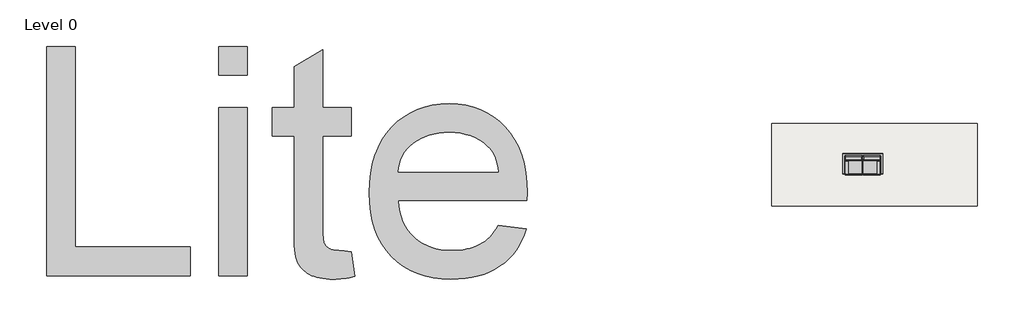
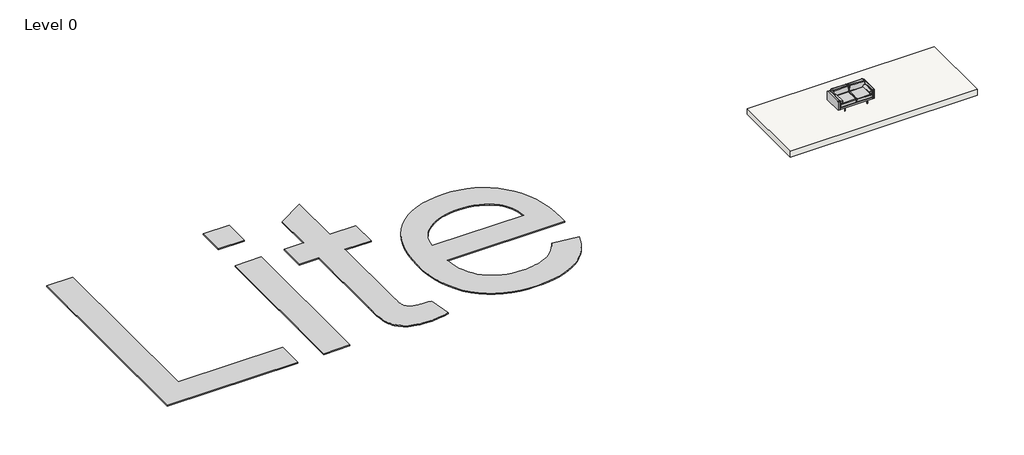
# One storey, incomplete: 1 furniture element, 1 proxy, 1 slab.
"""IFC4 building model written with IfcOpenShell, lengths in millimetres."""

from ifc_helpers import new_model, si_unit, frame, origin, origin_with_axes, place, context, project, spatial, polyline, outline, extrude, transform, mapped, element, save
from components import furniture_adbb1229, furniture_c92ce7f1

model = new_model("IFC4")

# Units and contexts
model_context = context("Model", 3, world=origin())
ifc_project = project(units=[si_unit("LENGTHUNIT", "METRE", prefix="MILLI")], contexts=[model_context])

# Site, building, storey
site = spatial("IfcSite", under=ifc_project)
building = spatial("IfcBuilding", under=site)
storey = spatial("IfcBuildingStorey", under=building, Name="Level 0", Elevation=0.0)

# Proxy
placement = place(None, origin())
element("IfcBuildingElementProxy", 1, Name="10 mm", ObjectType="10 mm", at=placement, inside=storey, context=model_context, shape_type="SweptSolid", body=[
    extrude(outline(polyline([(-136790.0745235, 70710.4267394), (-136790.0745235, 80756.0577544), (-135534.3706466, 80756.0577544), (-135534.3706466, 71966.1306163), (-130511.5551391, 71966.1306163), (-130511.5551391, 70710.4267394), (-136790.0745235, 70710.4267394)])), origin_with_axes(), (0.0, 0.0, 1.0), 50.0),
    extrude(outline(polyline([(-129255.8512623, 70710.4267394), (-129255.8512623, 78087.687016), (-128000.1473854, 78087.687016), (-128000.1473854, 70710.4267394), (-129255.8512623, 70710.4267394)])), origin_with_axes(), (0.0, 0.0, 1.0), 50.0),
    extrude(outline(polyline([(-129255.8512623, 79500.3538775), (-129255.8512623, 80756.0577544), (-128000.1473854, 80756.0577544), (-128000.1473854, 79500.3538775), (-129255.8512623, 79500.3538775)])), origin_with_axes(), (0.0, 0.0, 1.0), 50.0),
    extrude(outline(polyline([(-123448.2208317, 71757.6641523), (-123291.2578471, 70673.6385399), (-123546.7825496, 70621.0620714), (-123669.3715603, 70600.4070302), (-123788.5116773, 70583.5074511), (-123904.2029006, 70570.363334), (-124016.4452301, 70560.9746789), (-124125.238666, 70555.3414858), (-124230.5832082, 70553.4637548), (-124395.6319325, 70556.7210433), (-124551.1003965, 70566.4929088), (-124696.9886002, 70582.7793513), (-124833.2965436, 70605.5803708), (-124960.0242267, 70634.8959673), (-125077.1716496, 70670.7261408), (-125184.7388121, 70713.0708913), (-125282.7257144, 70761.9302187), (-125372.4735928, 70816.0778499), (-125455.3236838, 70874.2875114), (-125531.2759874, 70936.5592033), (-125600.3305035, 71002.8929256), (-125662.4872323, 71073.2886782), (-125717.7461737, 71147.7464612), (-125766.1073276, 71226.2662745), (-125807.5706942, 71308.8481182), (-125843.2092624, 71405.1488947), (-125874.0960216, 71524.8255062), (-125900.2309717, 71667.8779529), (-125921.6141127, 71834.3062347), (-125938.2454445, 72024.1103516), (-125950.1249673, 72237.2903036), (-125957.2526809, 72473.8460907), (-125959.6285855, 72733.7777129), (-125959.6285855, 76831.9831392), (-126901.4064931, 76831.9831392), (-126901.4064931, 78087.687016), (-125959.6285855, 78087.687016), (-125959.6285855, 79880.4986059), (-124703.9247086, 80618.7151428), (-124703.9247086, 78087.687016), (-123448.2208317, 78087.687016), (-123448.2208317, 76831.9831392), (-124703.9247086, 76831.9831392), (-124703.9247086, 72770.5659124), (-124699.7860362, 72541.5593704), (-124687.3700188, 72357.3118045), (-124678.0580058, 72281.9726376), (-124666.6766566, 72217.8232146), (-124653.2259712, 72164.8635358), (-124637.7059495, 72123.0936009), (-124599.4615504, 72054.4989372), (-124576.4880862, 72023.0182019), (-124550.9471123, 71993.4151976), (-124492.1626351, 71939.842382), (-124423.108119, 71893.7804906), (-124383.9631754, 71873.9493518), (-124340.7178805, 71856.7623648), (-124293.3722341, 71842.2195297), (-124241.9262363, 71830.3208464), (-124186.3798872, 71821.066315), (-124126.7331866, 71814.4559354), (-123995.1387312, 71809.1676317), (-123883.7011435, 71805.9486642), (-123755.4022977, 71796.2917618), (-123610.2421938, 71780.1969246), (-123448.2208317, 71757.6641523)])), origin_with_axes(), (0.0, 0.0, 1.0), 50.0),
    extrude(outline(polyline([(-117027.4537426, 72907.9085239), (-115796.2753321, 72750.9455393), (-115882.4018721, 72497.0686416), (-115985.0447808, 72257.8303816), (-116104.2040583, 72033.2307594), (-116239.8797046, 71823.2697748), (-116392.0717196, 71627.947428), (-116560.7801033, 71447.2637189), (-116746.0048558, 71281.2186476), (-116947.745977, 71129.8122139), (-117165.0071199, 70994.7305438), (-117396.7919373, 70877.6597631), (-117643.1004294, 70778.5998716), (-117903.9325961, 70697.5508696), (-118179.2884374, 70634.5127569), (-118469.1679533, 70589.4855335), (-118773.5711438, 70562.4691995), (-119092.4980089, 70553.4637548), (-119492.6846417, 70569.002937), (-119871.6414178, 70615.6204836), (-120229.3683371, 70693.3163945), (-120565.8653995, 70802.0906699), (-120881.1326052, 70941.9433096), (-121175.1699541, 71112.8743137), (-121447.9774461, 71314.8836822), (-121699.5550813, 71547.9714151), (-121925.457619, 71809.1101501), (-122121.2398183, 72095.272525), (-122286.9016793, 72406.4585398), (-122422.4432019, 72742.6681944), (-122527.8643861, 73103.901489), (-122603.165232, 73490.1584234), (-122648.3457395, 73901.4389977), (-122663.4059087, 74337.7432119), (-122648.1924554, 74788.8968295), (-122602.5520953, 75214.0687812), (-122526.4848286, 75613.259067), (-122419.9906552, 75986.4676869), (-122283.0695752, 76333.6946409), (-122115.7215884, 76654.939929), (-121917.9466949, 76950.2035511), (-121689.7448948, 77219.4855074), (-121437.2858756, 77459.7584355), (-121166.739325, 77667.9949732), (-120878.1052429, 77844.1951205), (-120571.3836295, 77988.3588773), (-120246.5744846, 78100.4862438), (-119903.6778082, 78180.5772198), (-119542.6936005, 78228.6318054), (-119163.6218613, 78244.6500006), (-118796.9469789, 78228.6701265), (-118447.4016019, 78180.730504), (-118114.9857303, 78100.8311331), (-117799.6993641, 77988.972014), (-117501.5425034, 77845.1531465), (-117220.515148, 77669.3745307), (-116956.617298, 77461.6361665), (-116709.8489534, 77221.938054), (-116486.533086, 76953.2692344), (-116292.9926676, 76658.6187489), (-116129.2276982, 76337.9865975), (-115995.2381778, 75991.3727802), (-115891.0241064, 75618.7772969), (-115816.5854839, 75220.2001478), (-115771.9223104, 74795.6413327), (-115757.0345859, 74345.1008518), (-115764.3922258, 74006.6494162), (-121407.7020318, 74006.6494162), (-121380.3216479, 73748.3272777), (-121334.9686957, 73505.5634819), (-121271.6431752, 73278.3580289), (-121190.3450864, 73066.7109185), (-121091.0744292, 72870.6221509), (-120973.8312038, 72690.091726), (-120838.61541, 72525.1196437), (-120685.427048, 72375.7059042), (-120518.2515059, 72242.9234966), (-120341.0741721, 72127.84541), (-120153.8950465, 72030.4716444), (-119956.7141292, 71950.8021998), (-119749.5314201, 71888.8370763), (-119532.3469193, 71844.5762737), (-119305.1606268, 71818.0197922), (-119067.9725425, 71809.1676317), (-118891.0059744, 71813.2679831), (-118720.6306254, 71825.5690373), (-118556.8464955, 71846.0707943), (-118399.6535846, 71874.7732541), (-118249.0518928, 71911.6764168), (-118105.0414201, 71956.7802822), (-117967.6221665, 72010.0848505), (-117836.794132, 72071.5901216), (-117712.5573165, 72142.0625163), (-117594.9117202, 72222.2684554), (-117483.8573429, 72312.207939), (-117379.3941847, 72411.8809671), (-117281.5222455, 72521.2875396), (-117190.2415255, 72640.4276566), (-117105.5520245, 72769.301318), (-117027.4537426, 72907.9085239)]), holes=[polyline([(-121407.7020318, 75262.3532931), (-117012.7384628, 75262.3532931), (-117039.908081, 75445.9110802), (-117077.2710961, 75617.6659867), (-117124.8275082, 75777.6180126), (-117182.5773172, 75925.7671577), (-117250.5205232, 76062.1134222), (-117328.6571261, 76186.6568059), (-117416.987126, 76299.3973091), (-117515.5105229, 76400.3349315), (-117680.8274944, 76538.2906797), (-117857.9473467, 76657.8523281), (-118046.8700796, 76759.0198768), (-118247.5956933, 76841.7933257), (-118460.1241876, 76906.1726748), (-118684.4555625, 76952.1579242), (-118920.5898182, 76979.7490739), (-119168.5269545, 76988.9461238), (-119393.8738371, 76981.6076444), (-119610.0619908, 76959.5922062), (-119817.0914157, 76922.8998093), (-120014.9621118, 76871.5304536), (-120203.674079, 76805.4841392), (-120383.2273174, 76724.760866), (-120553.6218269, 76629.360634), (-120714.8576076, 76519.2834433), (-120862.757666, 76396.9051983), (-120993.1450085, 76264.6018037), (-121106.0196353, 76122.3732594), (-121201.3815462, 75970.2195655), (-121279.2307413, 75808.1407218), (-121339.5672206, 75636.1367286), (-121382.3909841, 75454.2075857), (-121407.7020318, 75262.3532931)])]), origin_with_axes(), (0.0, 0.0, 1.0), 50.0),
])

# Furniture
furniture_shape = furniture_adbb1229(model_context)
furniture_2_shape = furniture_c92ce7f1(model_context)
element("IfcFurniture", 2, ObjectType="Sofa_Bensen_Lite_LIT200IT : Sofa_Bensen_Lite_LIT200IT", at=placement, inside=storey, context=model_context, shape_type="MappedRepresentation", body=[
    mapped(furniture_shape, transform((-101069.2423771, 75613.0160226, 0.0), x_axis=(1.0, 0.0, 0.0), y_axis=(0.0, 1.0, 0.0), z_axis=(0.0, 0.0, 1.0))),
    mapped(furniture_2_shape, transform((-101069.2423771, 75613.0160226, 0.0), x_axis=(1.0, 0.0, 0.0), y_axis=(0.0, 1.0, 0.0), z_axis=(0.0, 0.0, 1.0))),
])

# Slab
element("IfcSlab", 3, ObjectType="FL_300 mm_Generic", at=placement, inside=storey, context=model_context, shape_type="SweptSolid", body=[
    extrude(outline(polyline([(-96047.8885325, 77369.9753886), (-96047.8885325, 73769.9753886), (-105047.8885325, 73769.9753886), (-105047.8885325, 77369.9753886), (-96047.8885325, 77369.9753886)])), frame((0.0, 0.0, -300.0), z_axis=(0.0, 0.0, 1.0), x_axis=(1.0, 0.0, 0.0)), (0.0, 0.0, 1.0), 300.0),
])

save(model, "model.ifc")
